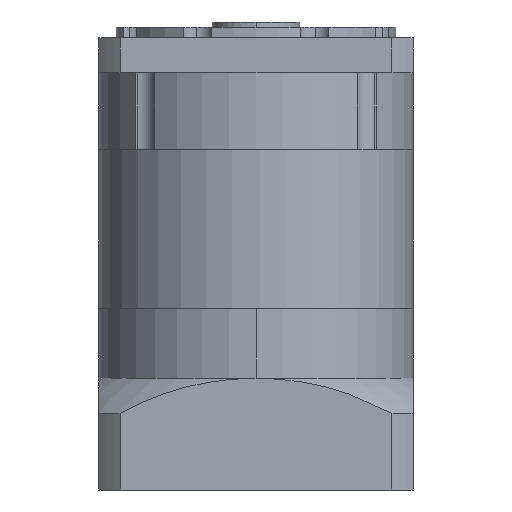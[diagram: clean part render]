
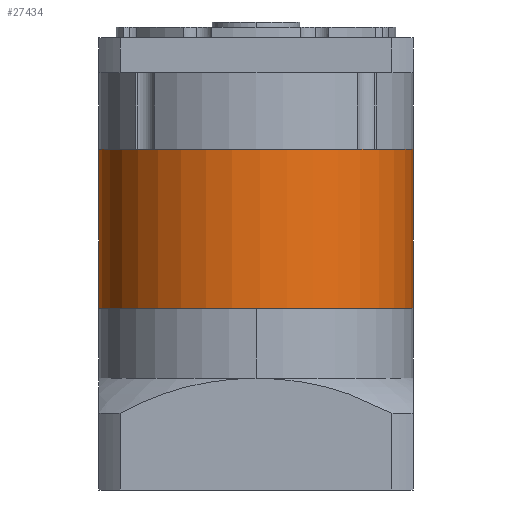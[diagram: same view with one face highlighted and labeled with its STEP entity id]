
A CAD part, left-side view. The second image highlights one B-rep face of the part: STEP entity #27434.
In plain terms, the highlighted cylindrical face has radius 45 mm (diameter 90 mm), a partial arc.
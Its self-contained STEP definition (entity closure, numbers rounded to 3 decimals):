
#1381 = ORIENTED_EDGE ( 'NONE', *, *, #7802, .F. ) ;
#3371 = CYLINDRICAL_SURFACE ( 'NONE', #24659, 45. ) ;
#7802 = EDGE_CURVE ( 'NONE', #12945, #43022, #28241, .T. ) ;
#8739 = DIRECTION ( 'NONE',  ( 0., 1., 0. ) ) ;
#8746 = DIRECTION ( 'NONE',  ( 0., 0., -1. ) ) ;
#8802 = CARTESIAN_POINT ( 'NONE',  ( 0., 0., 22.75 ) ) ;
#9883 = EDGE_CURVE ( 'NONE', #12945, #16700, #27163, .T. ) ;
#10536 = AXIS2_PLACEMENT_3D ( 'NONE', #31222, #10744, #34698 ) ;
#10744 = DIRECTION ( 'NONE',  ( 0., 0., 1. ) ) ;
#11898 = AXIS2_PLACEMENT_3D ( 'NONE', #8802, #8746, #8739 ) ;
#12943 = ORIENTED_EDGE ( 'NONE', *, *, #9883, .T. ) ;
#12945 = VERTEX_POINT ( 'NONE', #24773 ) ;
#14674 = LINE ( 'NONE', #17680, #39628 ) ;
#14708 = ORIENTED_EDGE ( 'NONE', *, *, #41928, .T. ) ;
#14762 = DIRECTION ( 'NONE',  ( 0., 0., -1. ) ) ;
#15060 = CARTESIAN_POINT ( 'NONE',  ( 0., 45., 22.75 ) ) ;
#16561 = CARTESIAN_POINT ( 'NONE',  ( 0., -45., 22.75 ) ) ;
#16700 = VERTEX_POINT ( 'NONE', #16561 ) ;
#17680 = CARTESIAN_POINT ( 'NONE',  ( 0., -45., 22.75 ) ) ;
#19181 = VECTOR ( 'NONE', #14762, 1000. ) ;
#19315 = CIRCLE ( 'NONE', #10536, 45. ) ;
#19682 = CARTESIAN_POINT ( 'NONE',  ( 0., -45., -22.75 ) ) ;
#21518 = FACE_OUTER_BOUND ( 'NONE', #41474, .T. ) ;
#24659 = AXIS2_PLACEMENT_3D ( 'NONE', #38816, #25341, #42076 ) ;
#24773 = CARTESIAN_POINT ( 'NONE',  ( 0., 45., 22.75 ) ) ;
#25341 = DIRECTION ( 'NONE',  ( 0., 0., -1. ) ) ;
#25485 = CARTESIAN_POINT ( 'NONE',  ( 0., 45., -22.75 ) ) ;
#27163 = CIRCLE ( 'NONE', #11898, 45. ) ;
#27434 = ADVANCED_FACE ( 'NONE', ( #21518 ), #3371, .T. ) ;
#28241 = LINE ( 'NONE', #15060, #19181 ) ;
#31222 = CARTESIAN_POINT ( 'NONE',  ( 0., 0., -22.75 ) ) ;
#34698 = DIRECTION ( 'NONE',  ( 0., 1., 0. ) ) ;
#37043 = VERTEX_POINT ( 'NONE', #19682 ) ;
#38005 = DIRECTION ( 'NONE',  ( 0., 0., -1. ) ) ;
#38816 = CARTESIAN_POINT ( 'NONE',  ( 0., 0., 22.75 ) ) ;
#38900 = EDGE_CURVE ( 'NONE', #16700, #37043, #14674, .T. ) ;
#39170 = ORIENTED_EDGE ( 'NONE', *, *, #38900, .T. ) ;
#39628 = VECTOR ( 'NONE', #38005, 1000. ) ;
#41474 = EDGE_LOOP ( 'NONE', ( #12943, #39170, #14708, #1381 ) ) ;
#41928 = EDGE_CURVE ( 'NONE', #37043, #43022, #19315, .T. ) ;
#42076 = DIRECTION ( 'NONE',  ( 0., 1., 0. ) ) ;
#43022 = VERTEX_POINT ( 'NONE', #25485 ) ;
